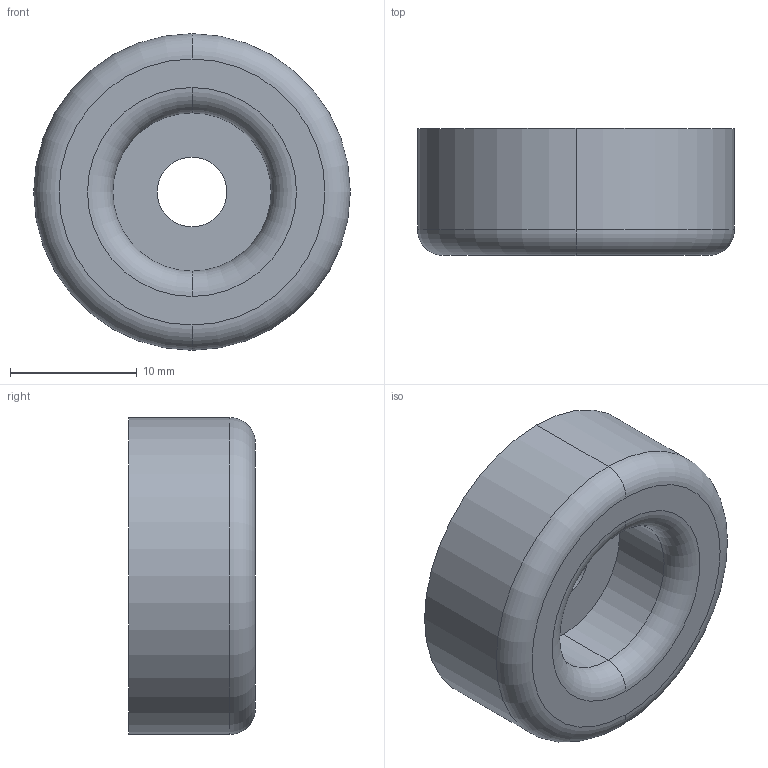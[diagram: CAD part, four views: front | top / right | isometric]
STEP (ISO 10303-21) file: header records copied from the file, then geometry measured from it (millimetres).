
FILE_DESCRIPTION (( 'STEP AP214' ), '1' );
FILE_NAME ('Rubber feet.STEP', '2019-09-11T05:21:08', ( '' ), ( '' ), 'SwSTEP 2.0', 'SolidWorks 2018', '' );
FILE_SCHEMA (( 'AUTOMOTIVE_DESIGN' ));
Length unit declared in the file: millimetre
Products named in the file (1): Rubber feet
Bounding box: 25 x 10 x 25 mm (x, y, z)
Volume: 3877.3 mm3; surface area: 1945.2 mm2
Topology: 1 solids, 1 shells, 13 faces, 26 edges, 16 vertices
Faces by surface type: cylinder 6, torus 4, plane 3
Entity records: 419 total; most frequent: DIRECTION 74, CARTESIAN_POINT 56, ORIENTED_EDGE 52, AXIS2_PLACEMENT_3D 34, EDGE_CURVE 26, CIRCLE 20, EDGE_LOOP 16, VERTEX_POINT 16
